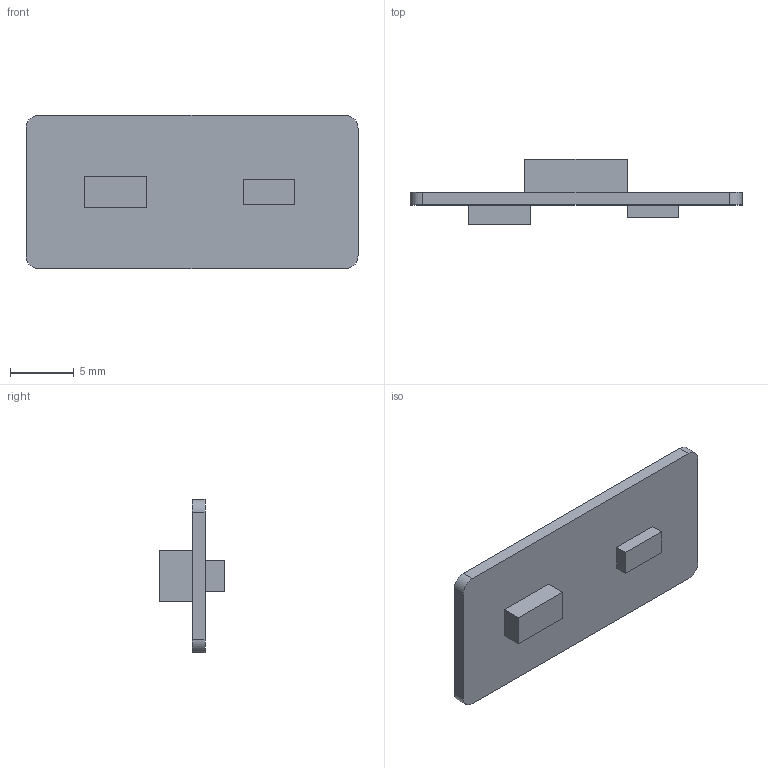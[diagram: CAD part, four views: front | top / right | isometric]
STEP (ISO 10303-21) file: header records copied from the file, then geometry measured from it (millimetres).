
FILE_DESCRIPTION(('Open CASCADE Model'),'2;1');
FILE_NAME('Open CASCADE Shape Model','2026-11-01T16:34:13',('Author'),( 'Open CASCADE'),'Open CASCADE STEP processor 8.0','build123d', 'Unknown');
FILE_SCHEMA(('AUTOMOTIVE_DESIGN { 1 0 10303 214 1 1 1 1 }'));
Length unit declared in the file: millimetre
Products named in the file (1): SOLID
Bounding box: 26 x 5.16 x 12 mm (x, y, z)
Volume: 421.5 mm3; surface area: 794.1 mm2
Topology: 1 solids, 1 shells, 25 faces, 60 edges, 40 vertices
Faces by surface type: plane 21, cylinder 4
Entity records: 1500 total; most frequent: CARTESIAN_POINT 294, DIRECTION 212, LINE 140, VECTOR 140, ORIENTED_EDGE 120, PCURVE 120, DEFINITIONAL_REPRESENTATION 120, EDGE_CURVE 60
